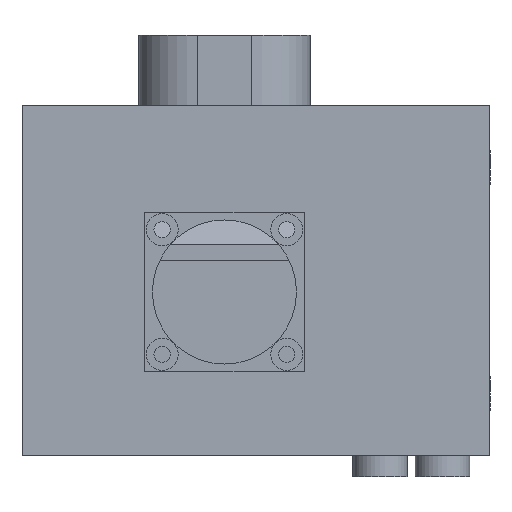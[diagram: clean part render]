
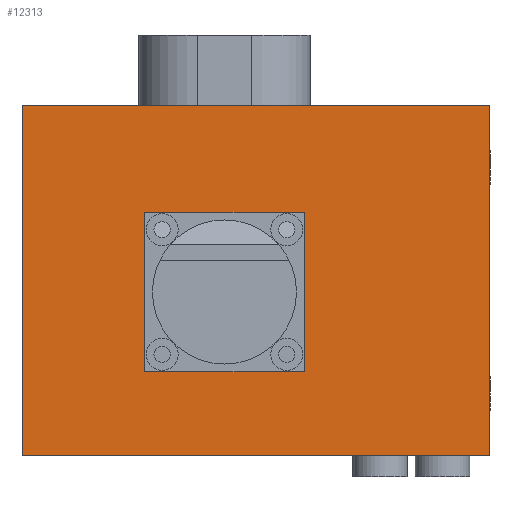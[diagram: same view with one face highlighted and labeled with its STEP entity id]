
A CAD part, front view. The second image highlights one B-rep face of the part: STEP entity #12313.
In plain terms, the highlighted planar face has unit normal (0, -1, 0).
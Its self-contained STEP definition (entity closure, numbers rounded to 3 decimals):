
#32 = PLANE('',#33);
#33 = AXIS2_PLACEMENT_3D('',#34,#35,#36);
#34 = CARTESIAN_POINT('',(0.,-36.,0.));
#35 = DIRECTION('',(1.,0.,-0.));
#36 = DIRECTION('',(0.,0.,1.));
#98 = PLANE('',#99);
#99 = AXIS2_PLACEMENT_3D('',#100,#101,#102);
#100 = CARTESIAN_POINT('',(0.,-36.,90.));
#101 = DIRECTION('',(0.,0.,1.));
#102 = DIRECTION('',(1.,0.,-0.));
#189 = VERTEX_POINT('',#190);
#190 = CARTESIAN_POINT('',(0.,-36.,90.));
#211 = EDGE_CURVE('',#212,#189,#214,.T.);
#212 = VERTEX_POINT('',#213);
#213 = CARTESIAN_POINT('',(0.,-36.,0.));
#214 = SURFACE_CURVE('',#215,(#219,#226),.PCURVE_S1.);
#215 = LINE('',#216,#217);
#216 = CARTESIAN_POINT('',(0.,-36.,0.));
#217 = VECTOR('',#218,1.);
#218 = DIRECTION('',(0.,0.,1.));
#219 = PCURVE('',#32,#220);
#220 = DEFINITIONAL_REPRESENTATION('',(#221),#225);
#221 = LINE('',#222,#223);
#222 = CARTESIAN_POINT('',(0.,0.));
#223 = VECTOR('',#224,1.);
#224 = DIRECTION('',(1.,0.));
#225 = ( GEOMETRIC_REPRESENTATION_CONTEXT(2) 
PARAMETRIC_REPRESENTATION_CONTEXT() REPRESENTATION_CONTEXT('2D SPACE',''
  ) );
#226 = PCURVE('',#227,#232);
#227 = PLANE('',#228);
#228 = AXIS2_PLACEMENT_3D('',#229,#230,#231);
#229 = CARTESIAN_POINT('',(0.,-36.,0.));
#230 = DIRECTION('',(-0.,1.,0.));
#231 = DIRECTION('',(0.,0.,1.));
#232 = DEFINITIONAL_REPRESENTATION('',(#233),#237);
#233 = LINE('',#234,#235);
#234 = CARTESIAN_POINT('',(0.,0.));
#235 = VECTOR('',#236,1.);
#236 = DIRECTION('',(1.,0.));
#237 = ( GEOMETRIC_REPRESENTATION_CONTEXT(2) 
PARAMETRIC_REPRESENTATION_CONTEXT() REPRESENTATION_CONTEXT('2D SPACE',''
  ) );
#255 = PLANE('',#256);
#256 = AXIS2_PLACEMENT_3D('',#257,#258,#259);
#257 = CARTESIAN_POINT('',(0.,-36.,0.));
#258 = DIRECTION('',(0.,0.,1.));
#259 = DIRECTION('',(1.,0.,-0.));
#8134 = PLANE('',#8135);
#8135 = AXIS2_PLACEMENT_3D('',#8136,#8137,#8138);
#8136 = CARTESIAN_POINT('',(120.,-36.,0.));
#8137 = DIRECTION('',(1.,0.,-0.));
#8138 = DIRECTION('',(0.,0.,1.));
#8149 = EDGE_CURVE('',#8150,#8152,#8154,.T.);
#8150 = VERTEX_POINT('',#8151);
#8151 = CARTESIAN_POINT('',(120.,-36.,0.));
#8152 = VERTEX_POINT('',#8153);
#8153 = CARTESIAN_POINT('',(120.,-36.,90.));
#8154 = SURFACE_CURVE('',#8155,(#8159,#8166),.PCURVE_S1.);
#8155 = LINE('',#8156,#8157);
#8156 = CARTESIAN_POINT('',(120.,-36.,0.));
#8157 = VECTOR('',#8158,1.);
#8158 = DIRECTION('',(0.,0.,1.));
#8159 = PCURVE('',#8134,#8160);
#8160 = DEFINITIONAL_REPRESENTATION('',(#8161),#8165);
#8161 = LINE('',#8162,#8163);
#8162 = CARTESIAN_POINT('',(0.,0.));
#8163 = VECTOR('',#8164,1.);
#8164 = DIRECTION('',(1.,0.));
#8165 = ( GEOMETRIC_REPRESENTATION_CONTEXT(2) 
PARAMETRIC_REPRESENTATION_CONTEXT() REPRESENTATION_CONTEXT('2D SPACE',''
  ) );
#8166 = PCURVE('',#227,#8167);
#8167 = DEFINITIONAL_REPRESENTATION('',(#8168),#8172);
#8168 = LINE('',#8169,#8170);
#8169 = CARTESIAN_POINT('',(0.,120.));
#8170 = VECTOR('',#8171,1.);
#8171 = DIRECTION('',(1.,0.));
#8172 = ( GEOMETRIC_REPRESENTATION_CONTEXT(2) 
PARAMETRIC_REPRESENTATION_CONTEXT() REPRESENTATION_CONTEXT('2D SPACE',''
  ) );
#10888 = PLANE('',#10889);
#10889 = AXIS2_PLACEMENT_3D('',#10890,#10891,#10892);
#10890 = CARTESIAN_POINT('',(31.5,-36.2,62.5));
#10891 = DIRECTION('',(0.,0.,1.));
#10892 = DIRECTION('',(1.,0.,-0.));
#10915 = PLANE('',#10916);
#10916 = AXIS2_PLACEMENT_3D('',#10917,#10918,#10919);
#10917 = CARTESIAN_POINT('',(72.5,-36.2,21.5));
#10918 = DIRECTION('',(1.,0.,-0.));
#10919 = DIRECTION('',(0.,0.,1.));
#10942 = PLANE('',#10943);
#10943 = AXIS2_PLACEMENT_3D('',#10944,#10945,#10946);
#10944 = CARTESIAN_POINT('',(31.5,-36.2,21.5));
#10945 = DIRECTION('',(0.,0.,1.));
#10946 = DIRECTION('',(1.,0.,-0.));
#10967 = PLANE('',#10968);
#10968 = AXIS2_PLACEMENT_3D('',#10969,#10970,#10971);
#10969 = CARTESIAN_POINT('',(31.5,-36.2,21.5));
#10970 = DIRECTION('',(1.,0.,-0.));
#10971 = DIRECTION('',(0.,0.,1.));
#11629 = EDGE_CURVE('',#11630,#11632,#11634,.T.);
#11630 = VERTEX_POINT('',#11631);
#11631 = CARTESIAN_POINT('',(31.5,-36.,21.5));
#11632 = VERTEX_POINT('',#11633);
#11633 = CARTESIAN_POINT('',(72.5,-36.,21.5));
#11634 = SURFACE_CURVE('',#11635,(#11639,#11646),.PCURVE_S1.);
#11635 = LINE('',#11636,#11637);
#11636 = CARTESIAN_POINT('',(15.75,-36.,21.5));
#11637 = VECTOR('',#11638,1.);
#11638 = DIRECTION('',(1.,0.,-0.));
#11639 = PCURVE('',#10942,#11640);
#11640 = DEFINITIONAL_REPRESENTATION('',(#11641),#11645);
#11641 = LINE('',#11642,#11643);
#11642 = CARTESIAN_POINT('',(-15.75,0.2));
#11643 = VECTOR('',#11644,1.);
#11644 = DIRECTION('',(1.,0.));
#11645 = ( GEOMETRIC_REPRESENTATION_CONTEXT(2) 
PARAMETRIC_REPRESENTATION_CONTEXT() REPRESENTATION_CONTEXT('2D SPACE',''
  ) );
#11646 = PCURVE('',#227,#11647);
#11647 = DEFINITIONAL_REPRESENTATION('',(#11648),#11651);
#11648 = B_SPLINE_CURVE_WITH_KNOTS('',1,(#11649,#11650),.UNSPECIFIED.,
  .F.,.F.,(2,2),(15.75,56.75),.PIECEWISE_BEZIER_KNOTS.);
#11649 = CARTESIAN_POINT('',(21.5,31.5));
#11650 = CARTESIAN_POINT('',(21.5,72.5));
#11651 = ( GEOMETRIC_REPRESENTATION_CONTEXT(2) 
PARAMETRIC_REPRESENTATION_CONTEXT() REPRESENTATION_CONTEXT('2D SPACE',''
  ) );
#11700 = VERTEX_POINT('',#11701);
#11701 = CARTESIAN_POINT('',(31.5,-36.,62.5));
#11722 = EDGE_CURVE('',#11700,#11630,#11723,.T.);
#11723 = SURFACE_CURVE('',#11724,(#11728,#11735),.PCURVE_S1.);
#11724 = LINE('',#11725,#11726);
#11725 = CARTESIAN_POINT('',(31.5,-36.,10.75));
#11726 = VECTOR('',#11727,1.);
#11727 = DIRECTION('',(-0.,0.,-1.));
#11728 = PCURVE('',#10967,#11729);
#11729 = DEFINITIONAL_REPRESENTATION('',(#11730),#11734);
#11730 = LINE('',#11731,#11732);
#11731 = CARTESIAN_POINT('',(-10.75,-0.2));
#11732 = VECTOR('',#11733,1.);
#11733 = DIRECTION('',(-1.,-0.));
#11734 = ( GEOMETRIC_REPRESENTATION_CONTEXT(2) 
PARAMETRIC_REPRESENTATION_CONTEXT() REPRESENTATION_CONTEXT('2D SPACE',''
  ) );
#11735 = PCURVE('',#227,#11736);
#11736 = DEFINITIONAL_REPRESENTATION('',(#11737),#11740);
#11737 = B_SPLINE_CURVE_WITH_KNOTS('',1,(#11738,#11739),.UNSPECIFIED.,
  .F.,.F.,(2,2),(-51.75,-10.75),.PIECEWISE_BEZIER_KNOTS.);
#11738 = CARTESIAN_POINT('',(62.5,31.5));
#11739 = CARTESIAN_POINT('',(21.5,31.5));
#11740 = ( GEOMETRIC_REPRESENTATION_CONTEXT(2) 
PARAMETRIC_REPRESENTATION_CONTEXT() REPRESENTATION_CONTEXT('2D SPACE',''
  ) );
#11747 = EDGE_CURVE('',#11748,#11632,#11750,.T.);
#11748 = VERTEX_POINT('',#11749);
#11749 = CARTESIAN_POINT('',(72.5,-36.,62.5));
#11750 = SURFACE_CURVE('',#11751,(#11755,#11762),.PCURVE_S1.);
#11751 = LINE('',#11752,#11753);
#11752 = CARTESIAN_POINT('',(72.5,-36.,10.75));
#11753 = VECTOR('',#11754,1.);
#11754 = DIRECTION('',(-0.,0.,-1.));
#11755 = PCURVE('',#10915,#11756);
#11756 = DEFINITIONAL_REPRESENTATION('',(#11757),#11761);
#11757 = LINE('',#11758,#11759);
#11758 = CARTESIAN_POINT('',(-10.75,-0.2));
#11759 = VECTOR('',#11760,1.);
#11760 = DIRECTION('',(-1.,-0.));
#11761 = ( GEOMETRIC_REPRESENTATION_CONTEXT(2) 
PARAMETRIC_REPRESENTATION_CONTEXT() REPRESENTATION_CONTEXT('2D SPACE',''
  ) );
#11762 = PCURVE('',#227,#11763);
#11763 = DEFINITIONAL_REPRESENTATION('',(#11764),#11767);
#11764 = B_SPLINE_CURVE_WITH_KNOTS('',1,(#11765,#11766),.UNSPECIFIED.,
  .F.,.F.,(2,2),(-51.75,-10.75),.PIECEWISE_BEZIER_KNOTS.);
#11765 = CARTESIAN_POINT('',(62.5,72.5));
#11766 = CARTESIAN_POINT('',(21.5,72.5));
#11767 = ( GEOMETRIC_REPRESENTATION_CONTEXT(2) 
PARAMETRIC_REPRESENTATION_CONTEXT() REPRESENTATION_CONTEXT('2D SPACE',''
  ) );
#11796 = EDGE_CURVE('',#11700,#11748,#11797,.T.);
#11797 = SURFACE_CURVE('',#11798,(#11802,#11809),.PCURVE_S1.);
#11798 = LINE('',#11799,#11800);
#11799 = CARTESIAN_POINT('',(15.75,-36.,62.5));
#11800 = VECTOR('',#11801,1.);
#11801 = DIRECTION('',(1.,0.,-0.));
#11802 = PCURVE('',#10888,#11803);
#11803 = DEFINITIONAL_REPRESENTATION('',(#11804),#11808);
#11804 = LINE('',#11805,#11806);
#11805 = CARTESIAN_POINT('',(-15.75,0.2));
#11806 = VECTOR('',#11807,1.);
#11807 = DIRECTION('',(1.,0.));
#11808 = ( GEOMETRIC_REPRESENTATION_CONTEXT(2) 
PARAMETRIC_REPRESENTATION_CONTEXT() REPRESENTATION_CONTEXT('2D SPACE',''
  ) );
#11809 = PCURVE('',#227,#11810);
#11810 = DEFINITIONAL_REPRESENTATION('',(#11811),#11814);
#11811 = B_SPLINE_CURVE_WITH_KNOTS('',1,(#11812,#11813),.UNSPECIFIED.,
  .F.,.F.,(2,2),(15.75,56.75),.PIECEWISE_BEZIER_KNOTS.);
#11812 = CARTESIAN_POINT('',(62.5,31.5));
#11813 = CARTESIAN_POINT('',(62.5,72.5));
#11814 = ( GEOMETRIC_REPRESENTATION_CONTEXT(2) 
PARAMETRIC_REPRESENTATION_CONTEXT() REPRESENTATION_CONTEXT('2D SPACE',''
  ) );
#12261 = EDGE_CURVE('',#189,#8152,#12262,.T.);
#12262 = SURFACE_CURVE('',#12263,(#12267,#12274),.PCURVE_S1.);
#12263 = LINE('',#12264,#12265);
#12264 = CARTESIAN_POINT('',(0.,-36.,90.));
#12265 = VECTOR('',#12266,1.);
#12266 = DIRECTION('',(1.,0.,-0.));
#12267 = PCURVE('',#98,#12268);
#12268 = DEFINITIONAL_REPRESENTATION('',(#12269),#12273);
#12269 = LINE('',#12270,#12271);
#12270 = CARTESIAN_POINT('',(0.,0.));
#12271 = VECTOR('',#12272,1.);
#12272 = DIRECTION('',(1.,0.));
#12273 = ( GEOMETRIC_REPRESENTATION_CONTEXT(2) 
PARAMETRIC_REPRESENTATION_CONTEXT() REPRESENTATION_CONTEXT('2D SPACE',''
  ) );
#12274 = PCURVE('',#227,#12275);
#12275 = DEFINITIONAL_REPRESENTATION('',(#12276),#12280);
#12276 = LINE('',#12277,#12278);
#12277 = CARTESIAN_POINT('',(90.,0.));
#12278 = VECTOR('',#12279,1.);
#12279 = DIRECTION('',(0.,1.));
#12280 = ( GEOMETRIC_REPRESENTATION_CONTEXT(2) 
PARAMETRIC_REPRESENTATION_CONTEXT() REPRESENTATION_CONTEXT('2D SPACE',''
  ) );
#12313 = ADVANCED_FACE('',(#12314,#12340),#227,.F.);
#12314 = FACE_BOUND('',#12315,.F.);
#12315 = EDGE_LOOP('',(#12316,#12337,#12338,#12339));
#12316 = ORIENTED_EDGE('',*,*,#12317,.F.);
#12317 = EDGE_CURVE('',#212,#8150,#12318,.T.);
#12318 = SURFACE_CURVE('',#12319,(#12323,#12330),.PCURVE_S1.);
#12319 = LINE('',#12320,#12321);
#12320 = CARTESIAN_POINT('',(0.,-36.,0.));
#12321 = VECTOR('',#12322,1.);
#12322 = DIRECTION('',(1.,0.,-0.));
#12323 = PCURVE('',#227,#12324);
#12324 = DEFINITIONAL_REPRESENTATION('',(#12325),#12329);
#12325 = LINE('',#12326,#12327);
#12326 = CARTESIAN_POINT('',(0.,0.));
#12327 = VECTOR('',#12328,1.);
#12328 = DIRECTION('',(0.,1.));
#12329 = ( GEOMETRIC_REPRESENTATION_CONTEXT(2) 
PARAMETRIC_REPRESENTATION_CONTEXT() REPRESENTATION_CONTEXT('2D SPACE',''
  ) );
#12330 = PCURVE('',#255,#12331);
#12331 = DEFINITIONAL_REPRESENTATION('',(#12332),#12336);
#12332 = LINE('',#12333,#12334);
#12333 = CARTESIAN_POINT('',(0.,0.));
#12334 = VECTOR('',#12335,1.);
#12335 = DIRECTION('',(1.,0.));
#12336 = ( GEOMETRIC_REPRESENTATION_CONTEXT(2) 
PARAMETRIC_REPRESENTATION_CONTEXT() REPRESENTATION_CONTEXT('2D SPACE',''
  ) );
#12337 = ORIENTED_EDGE('',*,*,#211,.T.);
#12338 = ORIENTED_EDGE('',*,*,#12261,.T.);
#12339 = ORIENTED_EDGE('',*,*,#8149,.F.);
#12340 = FACE_BOUND('',#12341,.F.);
#12341 = EDGE_LOOP('',(#12342,#12343,#12344,#12345));
#12342 = ORIENTED_EDGE('',*,*,#11796,.F.);
#12343 = ORIENTED_EDGE('',*,*,#11722,.T.);
#12344 = ORIENTED_EDGE('',*,*,#11629,.T.);
#12345 = ORIENTED_EDGE('',*,*,#11747,.F.);
